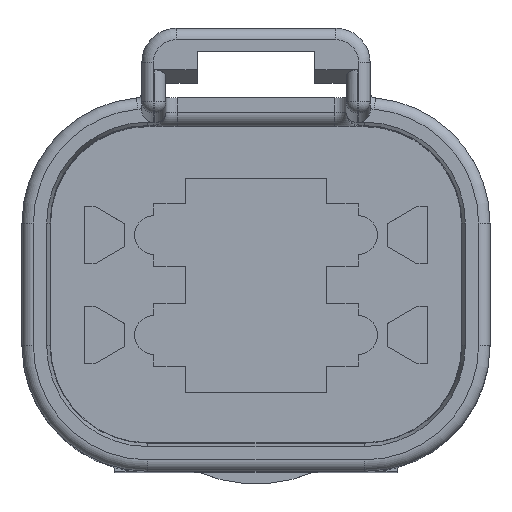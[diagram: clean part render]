
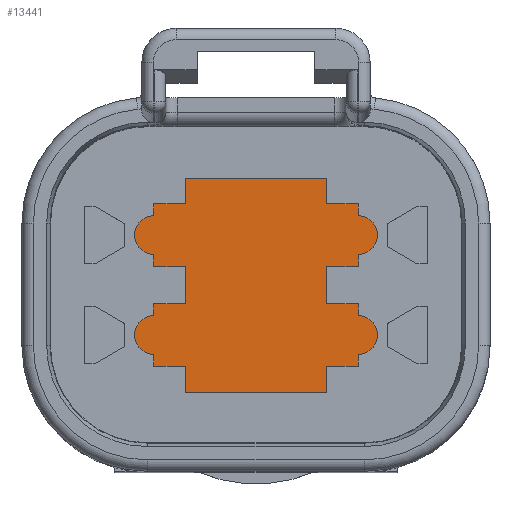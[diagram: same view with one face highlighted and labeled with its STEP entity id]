
A CAD part, top view. The second image highlights one B-rep face of the part: STEP entity #13441.
In plain terms, the highlighted planar face has unit normal (0, 0, 1).
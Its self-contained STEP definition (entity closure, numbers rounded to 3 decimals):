
#5993=CARTESIAN_POINT('',(-4.547,2.223,-18.907));
#5994=DIRECTION('',(0.,0.,1.));
#5995=DIRECTION('',(0.,1.,0.));
#5996=AXIS2_PLACEMENT_3D('',#5993,#5994,#5995);
#6001=DIRECTION('',(0.,-1.,0.));
#6002=VECTOR('',#6001,0.533);
#6003=CARTESIAN_POINT('',(-4.547,3.62,-18.907));
#6004=LINE('',#6003,#6002);
#6008=DIRECTION('',(-1.,0.,0.));
#6009=VECTOR('',#6008,1.397);
#6010=CARTESIAN_POINT('',(-3.15,3.62,-18.907));
#6011=LINE('',#6010,#6009);
#6015=DIRECTION('',(0.,-1.,0.));
#6016=VECTOR('',#6015,1.143);
#6017=CARTESIAN_POINT('',(-3.15,4.763,-18.907));
#6018=LINE('',#6017,#6016);
#6022=DIRECTION('',(-1.,0.,0.));
#6023=VECTOR('',#6022,6.299);
#6024=CARTESIAN_POINT('',(3.15,4.763,-18.907));
#6025=LINE('',#6024,#6023);
#6029=DIRECTION('',(0.,1.,0.));
#6030=VECTOR('',#6029,1.143);
#6031=CARTESIAN_POINT('',(3.15,3.62,-18.907));
#6032=LINE('',#6031,#6030);
#6036=DIRECTION('',(-1.,0.,0.));
#6037=VECTOR('',#6036,1.397);
#6038=CARTESIAN_POINT('',(4.547,3.62,-18.907));
#6039=LINE('',#6038,#6037);
#6043=DIRECTION('',(0.,1.,0.));
#6044=VECTOR('',#6043,0.533);
#6045=CARTESIAN_POINT('',(4.547,3.086,-18.907));
#6046=LINE('',#6045,#6044);
#6050=CARTESIAN_POINT('',(4.547,2.223,-18.907));
#6051=DIRECTION('',(0.,0.,1.));
#6052=DIRECTION('',(0.,-1.,0.));
#6053=AXIS2_PLACEMENT_3D('',#6050,#6051,#6052);
#6058=DIRECTION('',(0.,1.,0.));
#6059=VECTOR('',#6058,0.533);
#6060=CARTESIAN_POINT('',(4.547,0.826,-18.907));
#6061=LINE('',#6060,#6059);
#6065=DIRECTION('',(1.,0.,0.));
#6066=VECTOR('',#6065,1.397);
#6067=CARTESIAN_POINT('',(3.15,0.826,-18.907));
#6068=LINE('',#6067,#6066);
#6072=DIRECTION('',(0.,1.,0.));
#6073=VECTOR('',#6072,1.651);
#6074=CARTESIAN_POINT('',(3.15,-0.826,-18.907));
#6075=LINE('',#6074,#6073);
#6079=DIRECTION('',(-1.,0.,0.));
#6080=VECTOR('',#6079,1.397);
#6081=CARTESIAN_POINT('',(4.547,-0.826,-18.907));
#6082=LINE('',#6081,#6080);
#6086=DIRECTION('',(0.,1.,0.));
#6087=VECTOR('',#6086,0.533);
#6088=CARTESIAN_POINT('',(4.547,-1.359,-18.907));
#6089=LINE('',#6088,#6087);
#6093=CARTESIAN_POINT('',(4.547,-2.223,-18.907));
#6094=DIRECTION('',(0.,0.,1.));
#6095=DIRECTION('',(0.,-1.,0.));
#6096=AXIS2_PLACEMENT_3D('',#6093,#6094,#6095);
#6101=DIRECTION('',(0.,1.,0.));
#6102=VECTOR('',#6101,0.533);
#6103=CARTESIAN_POINT('',(4.547,-3.62,-18.907));
#6104=LINE('',#6103,#6102);
#6108=DIRECTION('',(1.,0.,0.));
#6109=VECTOR('',#6108,1.397);
#6110=CARTESIAN_POINT('',(3.15,-3.62,-18.907));
#6111=LINE('',#6110,#6109);
#6115=DIRECTION('',(0.,1.,0.));
#6116=VECTOR('',#6115,1.143);
#6117=CARTESIAN_POINT('',(3.15,-4.763,-18.907));
#6118=LINE('',#6117,#6116);
#6122=DIRECTION('',(1.,0.,0.));
#6123=VECTOR('',#6122,6.299);
#6124=CARTESIAN_POINT('',(-3.15,-4.763,-18.907));
#6125=LINE('',#6124,#6123);
#6129=DIRECTION('',(0.,-1.,0.));
#6130=VECTOR('',#6129,1.143);
#6131=CARTESIAN_POINT('',(-3.15,-3.62,-18.907));
#6132=LINE('',#6131,#6130);
#6136=DIRECTION('',(1.,0.,0.));
#6137=VECTOR('',#6136,1.397);
#6138=CARTESIAN_POINT('',(-4.547,-3.62,-18.907));
#6139=LINE('',#6138,#6137);
#6143=DIRECTION('',(0.,-1.,0.));
#6144=VECTOR('',#6143,0.533);
#6145=CARTESIAN_POINT('',(-4.547,-3.086,-18.907));
#6146=LINE('',#6145,#6144);
#6150=CARTESIAN_POINT('',(-4.547,-2.223,-18.907));
#6151=DIRECTION('',(0.,0.,1.));
#6152=DIRECTION('',(0.,1.,0.));
#6153=AXIS2_PLACEMENT_3D('',#6150,#6151,#6152);
#6158=DIRECTION('',(0.,-1.,0.));
#6159=VECTOR('',#6158,0.533);
#6160=CARTESIAN_POINT('',(-4.547,-0.826,-18.907));
#6161=LINE('',#6160,#6159);
#6165=DIRECTION('',(-1.,0.,0.));
#6166=VECTOR('',#6165,1.397);
#6167=CARTESIAN_POINT('',(-3.15,-0.826,-18.907));
#6168=LINE('',#6167,#6166);
#6172=DIRECTION('',(0.,-1.,0.));
#6173=VECTOR('',#6172,1.651);
#6174=CARTESIAN_POINT('',(-3.15,0.826,-18.907));
#6175=LINE('',#6174,#6173);
#6179=DIRECTION('',(1.,0.,0.));
#6180=VECTOR('',#6179,1.397);
#6181=CARTESIAN_POINT('',(-4.547,0.826,-18.907));
#6182=LINE('',#6181,#6180);
#6186=DIRECTION('',(0.,-1.,0.));
#6187=VECTOR('',#6186,0.533);
#6188=CARTESIAN_POINT('',(-4.547,1.359,-18.907));
#6189=LINE('',#6188,#6187);
#7629=CARTESIAN_POINT('',(-4.547,3.086,-18.907));
#7630=CARTESIAN_POINT('',(-4.547,1.359,-18.907));
#7631=VERTEX_POINT('',#7629);
#7632=VERTEX_POINT('',#7630);
#7633=CARTESIAN_POINT('',(-4.547,0.826,-18.907));
#7634=VERTEX_POINT('',#7633);
#7635=CARTESIAN_POINT('',(-3.15,0.826,-18.907));
#7636=VERTEX_POINT('',#7635);
#7637=CARTESIAN_POINT('',(-3.15,-0.826,-18.907));
#7638=VERTEX_POINT('',#7637);
#7639=CARTESIAN_POINT('',(-4.547,-0.826,-18.907));
#7640=VERTEX_POINT('',#7639);
#7641=CARTESIAN_POINT('',(-4.547,-1.359,-18.907));
#7642=VERTEX_POINT('',#7641);
#7643=CARTESIAN_POINT('',(-4.547,-3.086,-18.907));
#7644=VERTEX_POINT('',#7643);
#7645=CARTESIAN_POINT('',(-4.547,-3.62,-18.907));
#7646=VERTEX_POINT('',#7645);
#7647=CARTESIAN_POINT('',(-3.15,-3.62,-18.907));
#7648=VERTEX_POINT('',#7647);
#7649=CARTESIAN_POINT('',(-3.15,-4.763,-18.907));
#7650=VERTEX_POINT('',#7649);
#7651=CARTESIAN_POINT('',(3.15,-4.763,-18.907));
#7652=VERTEX_POINT('',#7651);
#7653=CARTESIAN_POINT('',(3.15,-3.62,-18.907));
#7654=VERTEX_POINT('',#7653);
#7655=CARTESIAN_POINT('',(4.547,-3.62,-18.907));
#7656=VERTEX_POINT('',#7655);
#7657=CARTESIAN_POINT('',(4.547,-3.086,-18.907));
#7658=VERTEX_POINT('',#7657);
#7659=CARTESIAN_POINT('',(4.547,-1.359,-18.907));
#7660=VERTEX_POINT('',#7659);
#7661=CARTESIAN_POINT('',(4.547,-0.826,-18.907));
#7662=VERTEX_POINT('',#7661);
#7663=CARTESIAN_POINT('',(3.15,-0.826,-18.907));
#7664=VERTEX_POINT('',#7663);
#7665=CARTESIAN_POINT('',(3.15,0.826,-18.907));
#7666=VERTEX_POINT('',#7665);
#7667=CARTESIAN_POINT('',(4.547,0.826,-18.907));
#7668=VERTEX_POINT('',#7667);
#7669=CARTESIAN_POINT('',(4.547,1.359,-18.907));
#7670=VERTEX_POINT('',#7669);
#7671=CARTESIAN_POINT('',(4.547,3.086,-18.907));
#7672=VERTEX_POINT('',#7671);
#7673=CARTESIAN_POINT('',(4.547,3.62,-18.907));
#7674=VERTEX_POINT('',#7673);
#7675=CARTESIAN_POINT('',(3.15,3.62,-18.907));
#7676=VERTEX_POINT('',#7675);
#7677=CARTESIAN_POINT('',(3.15,4.763,-18.907));
#7678=VERTEX_POINT('',#7677);
#7679=CARTESIAN_POINT('',(-3.15,4.763,-18.907));
#7680=VERTEX_POINT('',#7679);
#7681=CARTESIAN_POINT('',(-3.15,3.62,-18.907));
#7682=VERTEX_POINT('',#7681);
#7683=CARTESIAN_POINT('',(-4.547,3.62,-18.907));
#7684=VERTEX_POINT('',#7683);
#13378=CARTESIAN_POINT('',(0.,0.,-18.907));
#13379=DIRECTION('',(0.,0.,1.));
#13380=DIRECTION('',(1.,0.,0.));
#13381=AXIS2_PLACEMENT_3D('',#13378,#13379,#13380);
#13382=PLANE('',#13381);
#13384=ORIENTED_EDGE('',*,*,#13383,.F.);
#13386=ORIENTED_EDGE('',*,*,#13385,.F.);
#13388=ORIENTED_EDGE('',*,*,#13387,.F.);
#13390=ORIENTED_EDGE('',*,*,#13389,.F.);
#13392=ORIENTED_EDGE('',*,*,#13391,.F.);
#13394=ORIENTED_EDGE('',*,*,#13393,.F.);
#13396=ORIENTED_EDGE('',*,*,#13395,.F.);
#13398=ORIENTED_EDGE('',*,*,#13397,.F.);
#13400=ORIENTED_EDGE('',*,*,#13399,.F.);
#13402=ORIENTED_EDGE('',*,*,#13401,.F.);
#13404=ORIENTED_EDGE('',*,*,#13403,.F.);
#13406=ORIENTED_EDGE('',*,*,#13405,.F.);
#13408=ORIENTED_EDGE('',*,*,#13407,.F.);
#13410=ORIENTED_EDGE('',*,*,#13409,.F.);
#13412=ORIENTED_EDGE('',*,*,#13411,.F.);
#13414=ORIENTED_EDGE('',*,*,#13413,.F.);
#13416=ORIENTED_EDGE('',*,*,#13415,.F.);
#13418=ORIENTED_EDGE('',*,*,#13417,.F.);
#13420=ORIENTED_EDGE('',*,*,#13419,.F.);
#13422=ORIENTED_EDGE('',*,*,#13421,.F.);
#13424=ORIENTED_EDGE('',*,*,#13423,.F.);
#13426=ORIENTED_EDGE('',*,*,#13425,.F.);
#13428=ORIENTED_EDGE('',*,*,#13427,.F.);
#13430=ORIENTED_EDGE('',*,*,#13429,.F.);
#13432=ORIENTED_EDGE('',*,*,#13431,.F.);
#13434=ORIENTED_EDGE('',*,*,#13433,.F.);
#13436=ORIENTED_EDGE('',*,*,#13435,.F.);
#13438=ORIENTED_EDGE('',*,*,#13437,.F.);
#13439=EDGE_LOOP('',(#13384,#13386,#13388,#13390,#13392,#13394,#13396,#13398,
#13400,#13402,#13404,#13406,#13408,#13410,#13412,#13414,#13416,#13418,#13420,
#13422,#13424,#13426,#13428,#13430,#13432,#13434,#13436,#13438));
#13440=FACE_OUTER_BOUND('',#13439,.F.);
#13441=ADVANCED_FACE('',(#13440),#13382,.T.);
#5997=CIRCLE('',#5996,0.864);
#6054=CIRCLE('',#6053,0.864);
#6097=CIRCLE('',#6096,0.864);
#6154=CIRCLE('',#6153,0.864);
#13383=EDGE_CURVE('',#7631,#7632,#5997,.T.);
#13385=EDGE_CURVE('',#7684,#7631,#6004,.T.);
#13387=EDGE_CURVE('',#7682,#7684,#6011,.T.);
#13389=EDGE_CURVE('',#7680,#7682,#6018,.T.);
#13391=EDGE_CURVE('',#7678,#7680,#6025,.T.);
#13393=EDGE_CURVE('',#7676,#7678,#6032,.T.);
#13395=EDGE_CURVE('',#7674,#7676,#6039,.T.);
#13397=EDGE_CURVE('',#7672,#7674,#6046,.T.);
#13399=EDGE_CURVE('',#7670,#7672,#6054,.T.);
#13401=EDGE_CURVE('',#7668,#7670,#6061,.T.);
#13403=EDGE_CURVE('',#7666,#7668,#6068,.T.);
#13405=EDGE_CURVE('',#7664,#7666,#6075,.T.);
#13407=EDGE_CURVE('',#7662,#7664,#6082,.T.);
#13409=EDGE_CURVE('',#7660,#7662,#6089,.T.);
#13411=EDGE_CURVE('',#7658,#7660,#6097,.T.);
#13413=EDGE_CURVE('',#7656,#7658,#6104,.T.);
#13415=EDGE_CURVE('',#7654,#7656,#6111,.T.);
#13417=EDGE_CURVE('',#7652,#7654,#6118,.T.);
#13419=EDGE_CURVE('',#7650,#7652,#6125,.T.);
#13421=EDGE_CURVE('',#7648,#7650,#6132,.T.);
#13423=EDGE_CURVE('',#7646,#7648,#6139,.T.);
#13425=EDGE_CURVE('',#7644,#7646,#6146,.T.);
#13427=EDGE_CURVE('',#7642,#7644,#6154,.T.);
#13429=EDGE_CURVE('',#7640,#7642,#6161,.T.);
#13431=EDGE_CURVE('',#7638,#7640,#6168,.T.);
#13433=EDGE_CURVE('',#7636,#7638,#6175,.T.);
#13435=EDGE_CURVE('',#7634,#7636,#6182,.T.);
#13437=EDGE_CURVE('',#7632,#7634,#6189,.T.);
